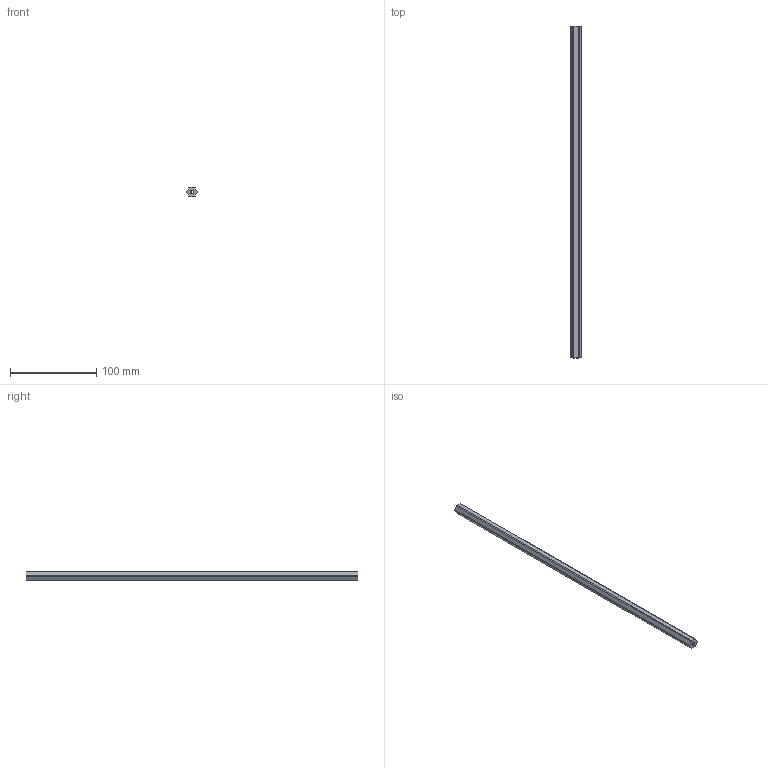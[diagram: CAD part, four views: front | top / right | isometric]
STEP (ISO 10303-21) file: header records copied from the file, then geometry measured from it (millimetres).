
FILE_DESCRIPTION (( 'STEP AP203' ), '1' );
FILE_NAME ('2104-0012-0384.STEP', '2018-03-09T17:45:51', ( '' ), ( '' ), 'SwSTEP 2.0', 'SolidWorks 2016', '' );
FILE_SCHEMA (( 'CONFIG_CONTROL_DESIGN' ));
Length unit declared in the file: millimetre
Products named in the file (1): 2104-0012-0384
Bounding box: 11.99 x 384 x 11 mm (x, y, z)
Volume: 36382.8 mm3; surface area: 18536.4 mm2
Topology: 1 solids, 1 shells, 190 faces, 558 edges, 370 vertices
Faces by surface type: cylinder 168, plane 10, cone 8, bspline 4
Entity records: 11993 total; most frequent: CARTESIAN_POINT 7843, ORIENTED_EDGE 1116, DIRECTION 624, EDGE_CURVE 558, VERTEX_POINT 370, AXIS2_PLACEMENT_3D 217, EDGE_LOOP 192, ADVANCED_FACE 190
